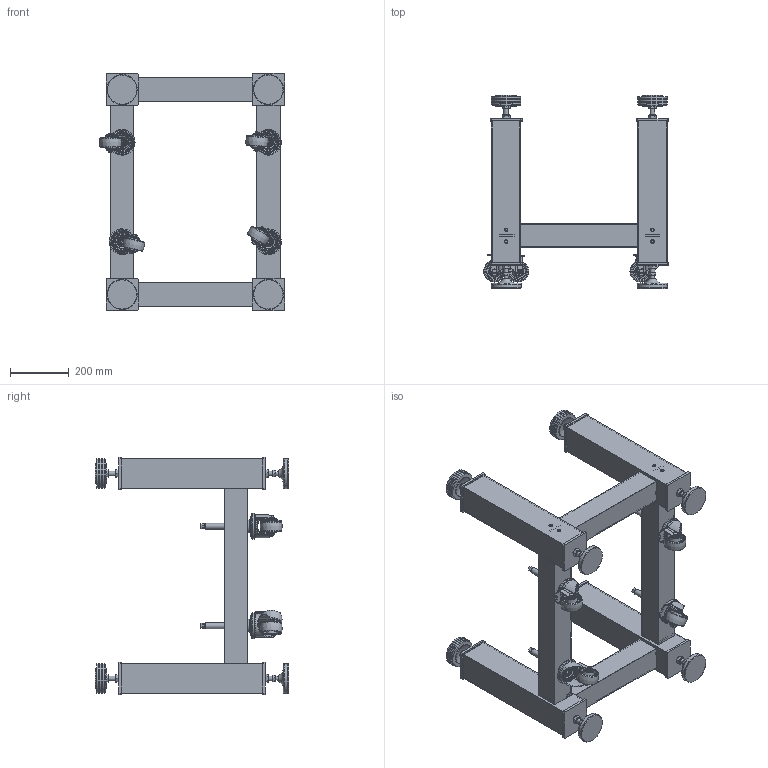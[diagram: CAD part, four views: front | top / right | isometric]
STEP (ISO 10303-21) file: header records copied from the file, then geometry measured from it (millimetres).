
FILE_DESCRIPTION(/* description */ (''),/* implementation_level */ '2;1');
FILE_NAME(/* name */ 'U:\KONSTRUKTORIAI\DOKUMENTACIJA\1\1TS\step\1TS05-07-05-AR-CA INT.stp',/* time_stamp */ '2022-06-14T11:05:05+03:00',/* author */ ('dsgn33'),/* organization */ (''),/* preprocessor_version */ 'ST-DEVELOPER v15.2',/* originating_system */ 'Autodesk Inventor 2014',/* authorisation */ '');
FILE_SCHEMA (('CONFIG_CONTROL_DESIGN'));
Products named in the file (1): 1TS05-07-05-AR-CA
Bounding box: 632.5 x 660 x 810 mm (x, y, z)
Volume: 8167035.4 mm3; surface area: 3621240.8 mm2
Topology: 5 solids, 23 shells, 2232 faces, 5796 edges, 3804 vertices
Faces by surface type: cylinder 908, plane 856, cone 212, bspline 140, torus 112, sphere 4
Full cylindrical faces by diameter (mm): 8 x4, 8.376 x8, 10.106 x4, 12 x16, 13 x8, 14 x4, 15 x4, 15.4 x4, 16 x32, 20 x8, 21 x12, 28 x4, 32 x8, 35 x8, 45 x4, 70 x8, 72 x4, 79.752 x4, 88 x4, 96 x12, 100 x16, 103 x4
Entity records: 83916 total; most frequent: CARTESIAN_POINT 30437, ORIENTED_EDGE 10496, DIRECTION 10406, EDGE_CURVE 5248, AXIS2_PLACEMENT_3D 4069, VERTEX_POINT 3688, EDGE_LOOP 2952, LINE 2268
